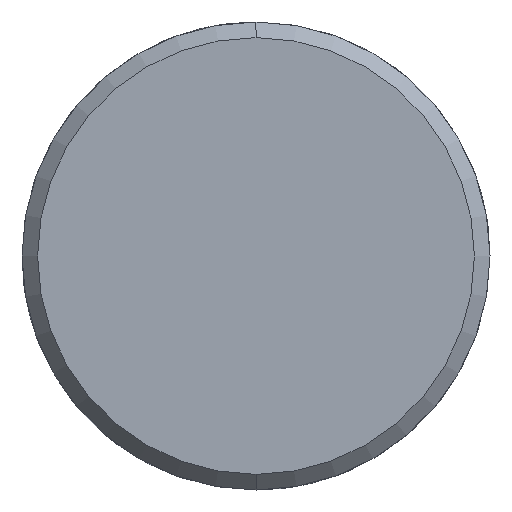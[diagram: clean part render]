
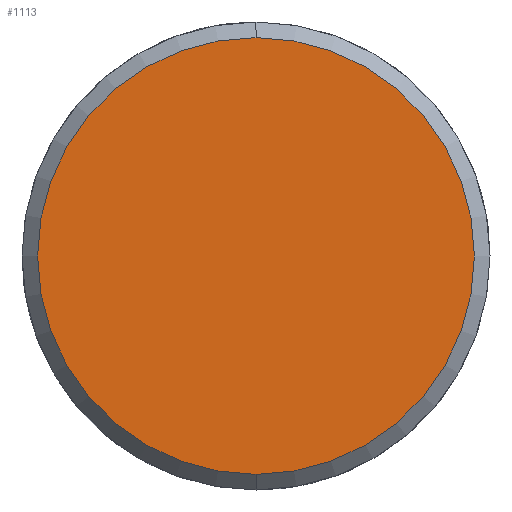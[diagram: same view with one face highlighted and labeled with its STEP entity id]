
A CAD part, left-side view. The second image highlights one B-rep face of the part: STEP entity #1113.
In plain terms, the highlighted planar face has unit normal (-1, 0, 0).
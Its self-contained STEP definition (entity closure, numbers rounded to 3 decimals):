
#1045=CARTESIAN_POINT('Vertex',(-5.,0.,-14.)) ;
#1048=CARTESIAN_POINT('Axis2P3D Location',(-5.,0.,0.)) ;
#1052=CARTESIAN_POINT('Vertex',(-5.,14.,0.)) ;
#1055=CARTESIAN_POINT('Axis2P3D Location',(-5.,0.,0.)) ;
#1059=CARTESIAN_POINT('Vertex',(-5.,0.,14.)) ;
#1081=CARTESIAN_POINT('Axis2P3D Location',(-5.,0.,0.)) ;
#1085=CARTESIAN_POINT('Vertex',(-5.,-14.,0.)) ;
#1088=CARTESIAN_POINT('Axis2P3D Location',(-5.,0.,0.)) ;
#1102=CARTESIAN_POINT('Axis2P3D Location',(-5.,0.,0.)) ;
#1049=DIRECTION('Axis2P3D Direction',(1.,0.,-0.)) ;
#1056=DIRECTION('Axis2P3D Direction',(1.,0.,-0.)) ;
#1082=DIRECTION('Axis2P3D Direction',(1.,0.,-0.)) ;
#1089=DIRECTION('Axis2P3D Direction',(1.,0.,-0.)) ;
#1103=DIRECTION('Axis2P3D Direction',(1.,0.,-0.)) ;
#1104=DIRECTION('Axis2P3D XDirection',(-0.,0.,-1.)) ;
#1050=AXIS2_PLACEMENT_3D('Circle Axis2P3D',#1048,#1049,$) ;
#1057=AXIS2_PLACEMENT_3D('Circle Axis2P3D',#1055,#1056,$) ;
#1083=AXIS2_PLACEMENT_3D('Circle Axis2P3D',#1081,#1082,$) ;
#1090=AXIS2_PLACEMENT_3D('Circle Axis2P3D',#1088,#1089,$) ;
#1105=AXIS2_PLACEMENT_3D('Plane Axis2P3D',#1102,#1103,#1104) ;
#1108=ORIENTED_EDGE('',*,*,#1054,.F.) ;
#1109=ORIENTED_EDGE('',*,*,#1092,.F.) ;
#1110=ORIENTED_EDGE('',*,*,#1087,.F.) ;
#1111=ORIENTED_EDGE('',*,*,#1061,.F.) ;
#1113=ADVANCED_FACE('351-18X66X120',(#1112),#1106,.F.) ;
#1051=CIRCLE('generated circle',#1050,14.) ;
#1058=CIRCLE('generated circle',#1057,14.) ;
#1084=CIRCLE('generated circle',#1083,14.) ;
#1091=CIRCLE('generated circle',#1090,14.) ;
#1054=EDGE_CURVE('',#1046,#1053,#1051,.T.) ;
#1061=EDGE_CURVE('',#1053,#1060,#1058,.T.) ;
#1087=EDGE_CURVE('',#1060,#1086,#1084,.T.) ;
#1092=EDGE_CURVE('',#1086,#1046,#1091,.T.) ;
#1107=EDGE_LOOP('',(#1108,#1109,#1110,#1111)) ;
#1112=FACE_OUTER_BOUND('',#1107,.T.) ;
#1106=PLANE('Plane',#1105) ;
#1046=VERTEX_POINT('',#1045) ;
#1053=VERTEX_POINT('',#1052) ;
#1060=VERTEX_POINT('',#1059) ;
#1086=VERTEX_POINT('',#1085) ;
